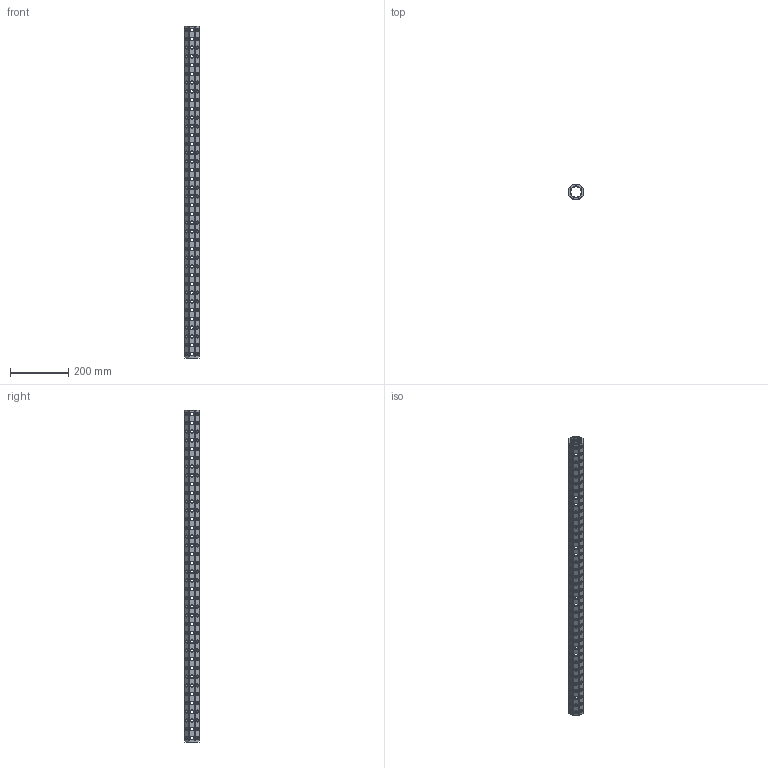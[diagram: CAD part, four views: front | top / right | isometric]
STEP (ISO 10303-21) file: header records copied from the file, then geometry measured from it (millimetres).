
FILE_DESCRIPTION(('CATIA V5 STEP Exchange'),'2;1');
FILE_NAME('U:\Room\唐宝山\EGT002\46-01-010267-01-EGT002-1138.stp','2021-08-24T01:16:29+00:00',('none'),('none'),'CATIA Version 5 Release 21 GA (IN-10)','CATIA V5 STEP AP203','none');
FILE_SCHEMA(('CONFIG_CONTROL_DESIGN'));
Products named in the file (1): 46-01-010267-01-EGT002-1138
Bounding box: 50 x 50 x 1138 mm (x, y, z)
Volume: 810703.9 mm3; surface area: 391627.6 mm2
Topology: 1 solids, 1 shells, 1604 faces, 4426 edges, 2748 vertices
Faces by surface type: cone 912, cylinder 666, plane 26
Entity records: 65002 total; most frequent: CARTESIAN_POINT 26045, ORIENTED_EDGE 8852, DIRECTION 6288, EDGE_CURVE 4426, AXIS2_PLACEMENT_3D 2959, VERTEX_POINT 2748, EDGE_LOOP 2138, VECTOR 1726
